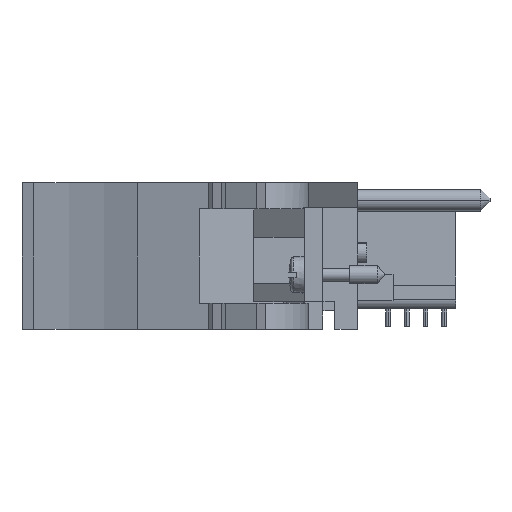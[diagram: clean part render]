
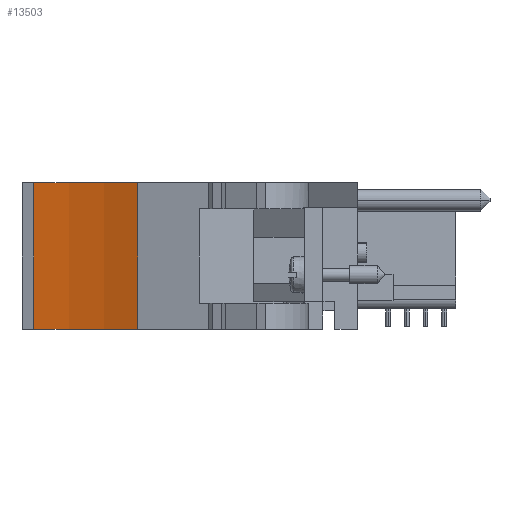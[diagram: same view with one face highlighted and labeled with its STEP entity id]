
A CAD part, front view. The second image highlights one B-rep face of the part: STEP entity #13503.
In plain terms, the highlighted cylindrical face has radius 51.46 mm (diameter 102.919 mm), a partial arc.
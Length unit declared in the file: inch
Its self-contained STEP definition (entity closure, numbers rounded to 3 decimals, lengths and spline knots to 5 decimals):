
#1929=CARTESIAN_POINT('',(-6.04833,-5.95079,0.694));
#1930=DIRECTION('',(0.,0.,1.));
#1931=DIRECTION('',(0.435,0.9,0.));
#1932=AXIS2_PLACEMENT_3D('',#1929,#1930,#1931);
#2398=CARTESIAN_POINT('',(-6.04833,-5.95079,-0.094));
#2399=DIRECTION('',(0.,0.,1.));
#2400=DIRECTION('',(0.435,0.9,0.));
#2401=AXIS2_PLACEMENT_3D('',#2398,#2399,#2400);
#2616=DIRECTION('',(0.,0.,1.));
#2617=VECTOR('',#2616,0.788);
#2618=CARTESIAN_POINT('',(-5.725,-3.95079,-0.094));
#2619=LINE('',#2618,#2617);
#2624=DIRECTION('',(0.,0.,1.));
#2625=VECTOR('',#2624,0.788);
#2626=CARTESIAN_POINT('',(-5.16703,-4.12655,
-0.094));
#2627=LINE('',#2626,#2625);
#8836=CARTESIAN_POINT('',(-5.16703,-4.12655,
-0.094));
#8837=CARTESIAN_POINT('',(-5.725,-3.95079,-0.094));
#8838=VERTEX_POINT('',#8836);
#8839=VERTEX_POINT('',#8837);
#8840=CARTESIAN_POINT('',(-5.16703,-4.12655,
0.694));
#8841=CARTESIAN_POINT('',(-5.725,-3.95079,0.694));
#8842=VERTEX_POINT('',#8840);
#8843=VERTEX_POINT('',#8841);
#13491=CARTESIAN_POINT('',(-6.04833,-5.95079,0.694));
#13492=DIRECTION('',(0.,0.,1.));
#13493=DIRECTION('',(0.,1.,0.));
#13494=AXIS2_PLACEMENT_3D('',#13491,#13492,#13493);
#13495=CYLINDRICAL_SURFACE('',#13494,2.02597);
#13496=ORIENTED_EDGE('',*,*,#13209,.T.);
#13497=ORIENTED_EDGE('',*,*,#13483,.T.);
#13498=ORIENTED_EDGE('',*,*,#12644,.F.);
#13500=ORIENTED_EDGE('',*,*,#13499,.F.);
#13501=EDGE_LOOP('',(#13496,#13497,#13498,#13500));
#13502=FACE_OUTER_BOUND('',#13501,.F.);
#13503=ADVANCED_FACE('',(#13502),#13495,.F.);
#1933=CIRCLE('',#1932,2.02597);
#2402=CIRCLE('',#2401,2.02597);
#12644=EDGE_CURVE('',#8842,#8843,#1933,.T.);
#13209=EDGE_CURVE('',#8838,#8839,#2402,.T.);
#13483=EDGE_CURVE('',#8839,#8843,#2619,.T.);
#13499=EDGE_CURVE('',#8838,#8842,#2627,.T.);
